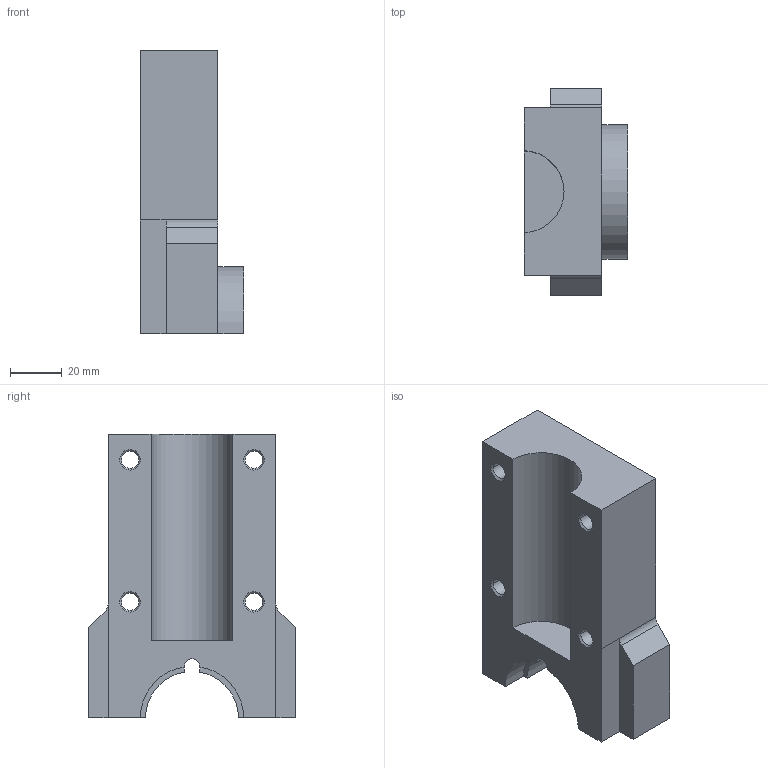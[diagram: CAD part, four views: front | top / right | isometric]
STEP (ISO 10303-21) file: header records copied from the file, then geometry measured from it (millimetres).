
FILE_DESCRIPTION(/* description */ ('(C) Elphel, Inc. 2011. Licensed under CERN OHL v.1.1 or later, see http://ohwr.org/cernohl'),/* implementation_level */ '2;1');
FILE_NAME(/* name */ '0353-22-08',/* time_stamp */ '2011-10-13T16:56:28-06:00',/* author */ (''),/* organization */ ('Elphel, Inc'),/* preprocessor_version */ 'ST-DEVELOPER v12',/* originating_system */ 'VariCAD 2010-3.03; kernel version (20100102)',/* authorisation */ '');
FILE_SCHEMA (('AUTOMOTIVE_DESIGN'));
Length unit declared in the file: millimetre
Products named in the file (1): Part
Bounding box: 40 x 80 x 110 mm (x, y, z)
Volume: 174727.8 mm3; surface area: 43032.5 mm2
Topology: 7 solids, 7 shells, 96 faces, 226 edges, 142 vertices
Faces by surface type: cylinder 51, plane 33, cone 12
Entity records: 3570 total; most frequent: DIRECTION 536, CARTESIAN_POINT 472, ORIENTED_EDGE 452, EDGE_CURVE 226, AXIS2_PLACEMENT_3D 206, VERTEX_POINT 142, LINE 124, VECTOR 124
